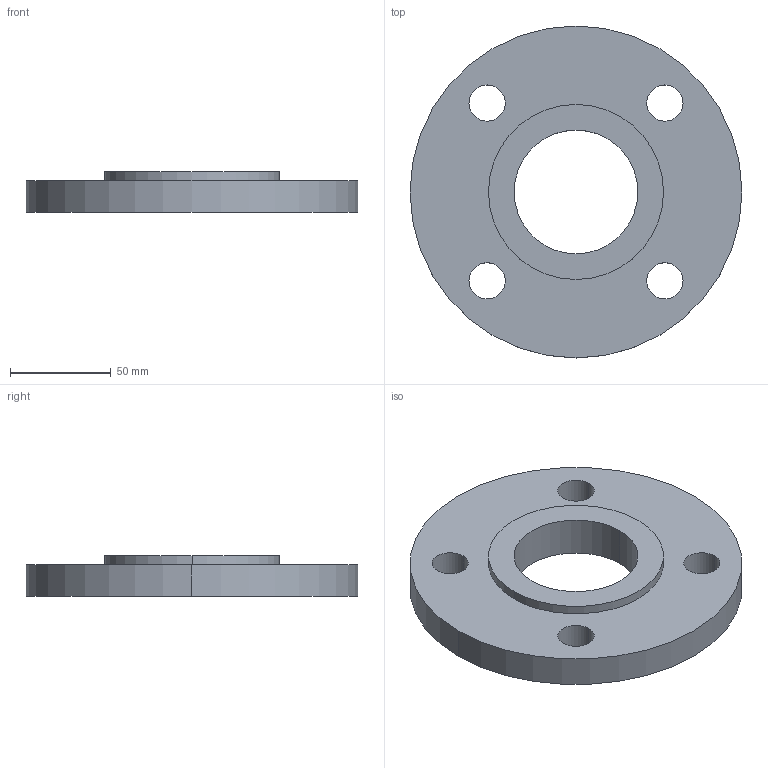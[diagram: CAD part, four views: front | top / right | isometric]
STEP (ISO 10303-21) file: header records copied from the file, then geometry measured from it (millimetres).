
FILE_DESCRIPTION (( 'STEP AP214' ), '1' );
FILE_NAME ('PN40 DN50 Type 01 - Type E Face.STEP', '2018-12-30T04:45:03', ( '' ), ( '' ), 'SwSTEP 2.0', 'SolidWorks 2019', '' );
FILE_SCHEMA (( 'AUTOMOTIVE_DESIGN' ));
Length unit declared in the file: millimetre
Products named in the file (1): PN40 DN50 Type 01 - Type E Face
Bounding box: 165 x 165 x 20 mm (x, y, z)
Volume: 282990.7 mm3; surface area: 51422.8 mm2
Topology: 1 solids, 1 shells, 17 faces, 42 edges, 28 vertices
Faces by surface type: cylinder 14, plane 3
Entity records: 578 total; most frequent: DIRECTION 106, CARTESIAN_POINT 88, ORIENTED_EDGE 84, AXIS2_PLACEMENT_3D 46, EDGE_CURVE 42, CIRCLE 28, VERTEX_POINT 28, EDGE_LOOP 28
